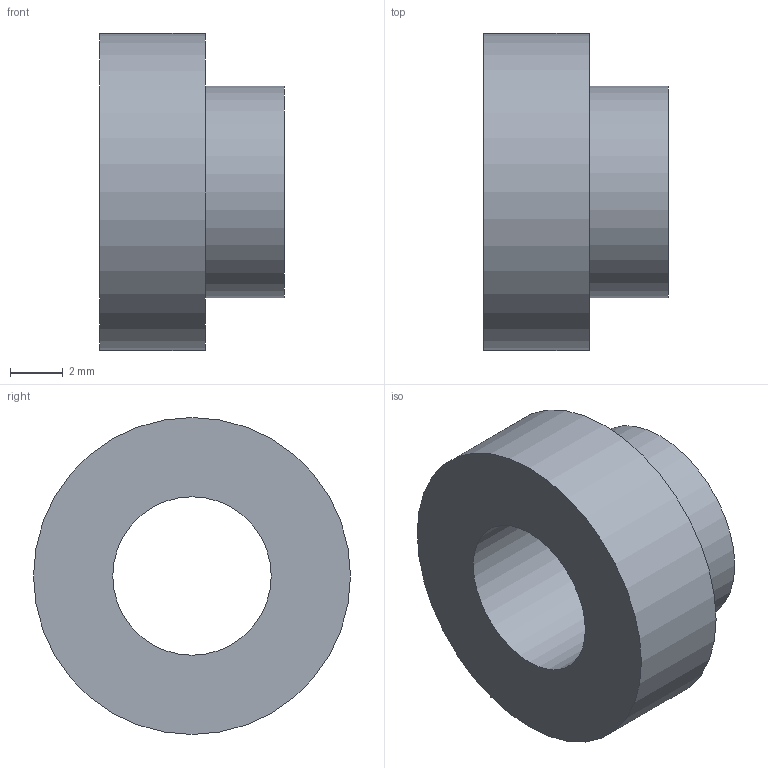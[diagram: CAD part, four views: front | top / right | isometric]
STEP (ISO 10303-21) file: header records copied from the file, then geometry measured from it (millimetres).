
FILE_DESCRIPTION(/* description */ ('STEP AP214'),/* implementation_level */ '2;1');
FILE_NAME(/* name */ 'Mounting Accessory GN 753.2-6-8-4-AE-NI',/* time_stamp */ '2024-12-09T14:00:47+01:00',/* author */ ('License CC BY-ND 4.0'),/* organization */ ('CADENAS'),/* preprocessor_version */ 'ST-DEVELOPER v19.3',/* originating_system */ 'PARTsolutions',/* authorisation */ ' ');
FILE_SCHEMA (('AUTOMOTIVE_DESIGN {1 0 10303 214 3 1 1}'));
Length unit declared in the file: millimetre
Products named in the file (1): Mounting Accessory GN 753.2-6-8-4-AE-NI
Bounding box: 7 x 12 x 12 mm (x, y, z)
Volume: 405.3 mm3; surface area: 527.8 mm2
Topology: 1 solids, 1 shells, 6 faces, 9 edges, 6 vertices
Faces by surface type: plane 3, cylinder 3
Full cylindrical faces by diameter (mm): 6 x1, 8 x1, 12 x1
Entity records: 158 total; most frequent: DIRECTION 26, CARTESIAN_POINT 19, AXIS2_PLACEMENT_3D 13, ORIENTED_EDGE 12, EDGE_LOOP 12, FACE_BOUND 12, EDGE_CURVE 6, VERTEX_POINT 6
